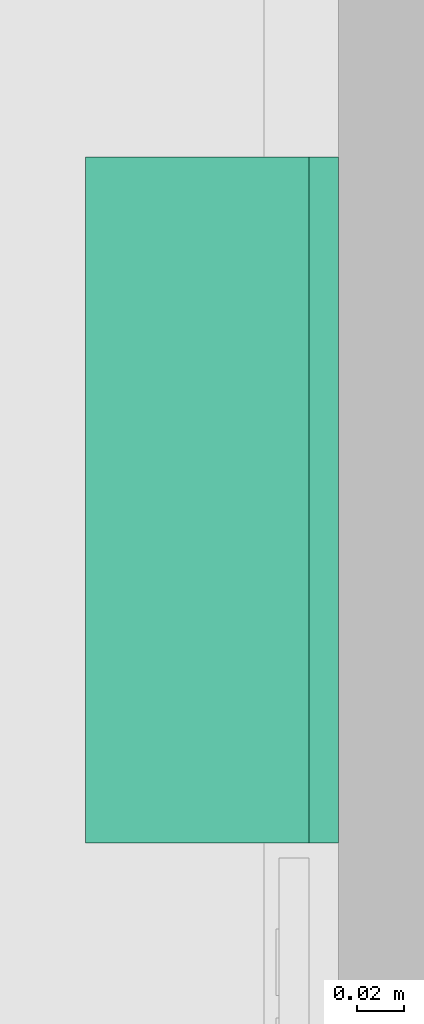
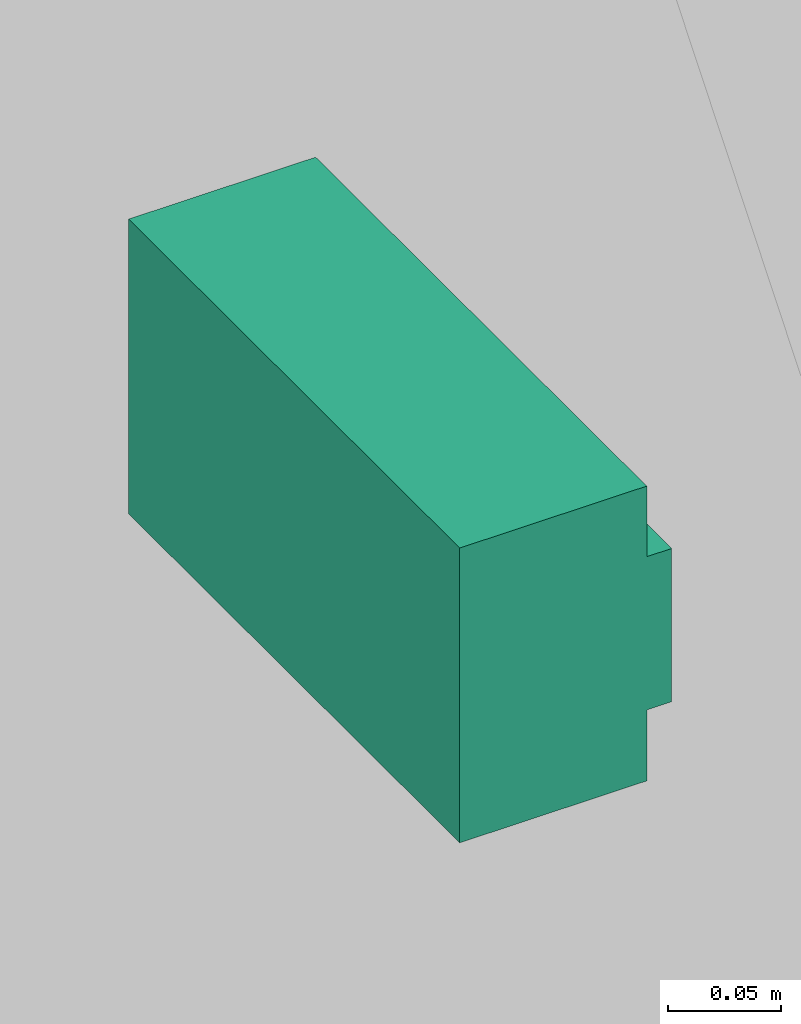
# One storey, part 43 of 60: 1 flow terminal.
"""IFC2X3 building model written with IfcOpenShell, lengths in feet."""

from ifc_helpers import new_model, entity, si_unit, converted_unit, direction, frame, frame_2d, origin, place, context, subcontext, project, spatial, rectangle, extrude, source, transform, mapped, material, type_object, type_shapes, element, save


model = new_model("IFC2X3")

# Units and contexts
model_context = context("Model", 3, precision=0.0001, world=origin(), true_north=direction((6.123031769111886e-17, 1.0)))
plan_context = context("Plan", 3, precision=0.0001, world=origin(), true_north=direction((6.123031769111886e-17, 1.0)))
body_context = subcontext(model_context, "Body", "Model", "MODEL_VIEW")
ifc_project = project(units=[converted_unit("LENGTHUNIT", "FOOT", entity("IfcLengthMeasure", 0.3048), si_unit("LENGTHUNIT", "METRE"), dimensions=[1, 0, 0, 0, 0, 0, 0]), converted_unit("AREAUNIT", "SQUARE FOOT", entity("IfcAreaMeasure", 0.09290304), si_unit("AREAUNIT", "SQUARE_METRE"), dimensions=[2, 0, 0, 0, 0, 0, 0]), converted_unit("PLANEANGLEUNIT", "DEGREE", entity("IfcPlaneAngleMeasure", 0.017453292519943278), si_unit("PLANEANGLEUNIT", "RADIAN"), dimensions=[0, 0, 0, 0, 0, 0, 0])], contexts=[model_context, plan_context])

# Site, building, storey
site_placement = place(None, origin())
site = spatial("IfcSite", under=ifc_project, at=site_placement, Name="Default", CompositionType="ELEMENT")
building_placement = place(site_placement, origin())
building = spatial("IfcBuilding", under=site, at=building_placement, CompositionType="ELEMENT")
storey_placement = place(building_placement, origin())
storey = spatial("IfcBuildingStorey", under=building, at=storey_placement, Name="First floor", CompositionType="ELEMENT", Elevation=0.0)

# Flow terminal
ifc_material = material(Name="Default New Material")
light_fixture_type = type_object("IfcLightFixtureType", Name="C_Wall Lamp Horizontal:C_Wall Lamp Horizontal", PredefinedType="NOTDEFINED", material=ifc_material)
shared_shape = source(origin(), body_context, "Body", "SweptSolid", [
    extrude(rectangle(XDim=0.9583333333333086, YDim=0.31250000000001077, at=frame_2d((0.0, 5.551115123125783e-17), x_axis=(1.0, 0.0))), frame((-0.11927710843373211, 0.46874999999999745, -12.162487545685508)), (0.0, 0.0, 1.0), 0.520833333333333),
    extrude(rectangle(XDim=0.9583333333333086, YDim=0.041666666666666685, at=frame_2d((0.0, 2.7755575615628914e-17), x_axis=(1.0, 0.0))), frame((-0.11927710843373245, 0.29166666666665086, -12.037245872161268)), (0.0, 0.0, 1.0), 0.27083333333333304),
])
type_shapes(light_fixture_type, [shared_shape])
flow_terminal_placement = place(storey_placement, frame((7.6874999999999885, 43.78559861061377, 30.235404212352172), z_axis=(0.0, 0.0, 1.0), x_axis=(0.0, 1.0, 0.0)))
element("IfcFlowTerminal", 1, at=flow_terminal_placement, inside=storey, type_object=light_fixture_type, material=ifc_material, Name="C_Wall Lamp Horizontal:C_Wall Lamp Horizontal", ObjectType="C_Wall Lamp Horizontal:C_Wall Lamp Horizontal", context=body_context, shape_type="MappedRepresentation", body=[
    mapped(shared_shape, transform((0.0, 0.0, 0.0), scale=1.0)),
])

save(model, "model.ifc")
